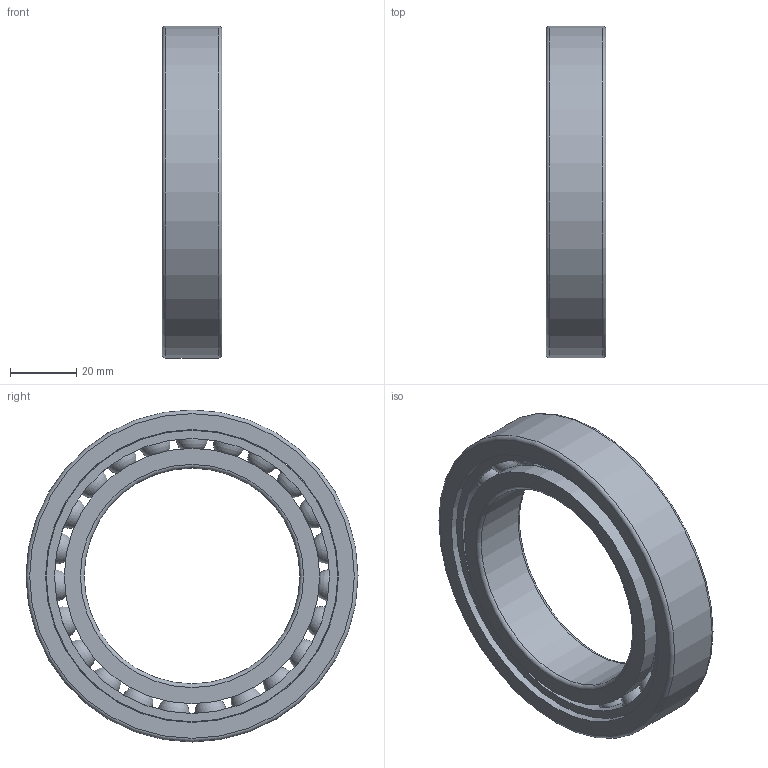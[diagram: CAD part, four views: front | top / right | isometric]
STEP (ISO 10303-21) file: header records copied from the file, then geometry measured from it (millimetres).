
FILE_DESCRIPTION(/* description */ (''),/* implementation_level */ '2;1');
FILE_NAME(/* name */ 'SM_6013_TA.step',/* time_stamp */ '2013-03-11T11:34:39+01:00',/* author */ ('Marian'),/* organization */ ('GMN'),/* preprocessor_version */ 'ST-DEVELOPER v11',/* originating_system */ 'SIEMENS UGS NX 6.0',/* authorisation */ '');
FILE_SCHEMA (('CONFIG_CONTROL_DESIGN'));
Length unit declared in the file: millimetre
Products named in the file (1): SM_6013_TA
Bounding box: 18 x 100 x 100 mm (x, y, z)
Volume: 61279.9 mm3; surface area: 38041.3 mm2
Topology: 26 solids, 26 shells, 66 faces, 172 edges, 112 vertices
Faces by surface type: cylinder 30, sphere 23, torus 6, plane 6, cone 1
Full cylindrical faces by diameter (mm): 9.725 x23, 65 x1, 76.9 x2, 82.825 x1, 87.8 x1, 88.2 x1, 100 x1
Entity records: 2200 total; most frequent: CARTESIAN_POINT 1004, DIRECTION 174, FACE_BOUND 155, EDGE_LOOP 132, ORIENTED_EDGE 132, VERTEX_POINT 89, AXIS2_PLACEMENT_3D 87, EDGE_CURVE 66
